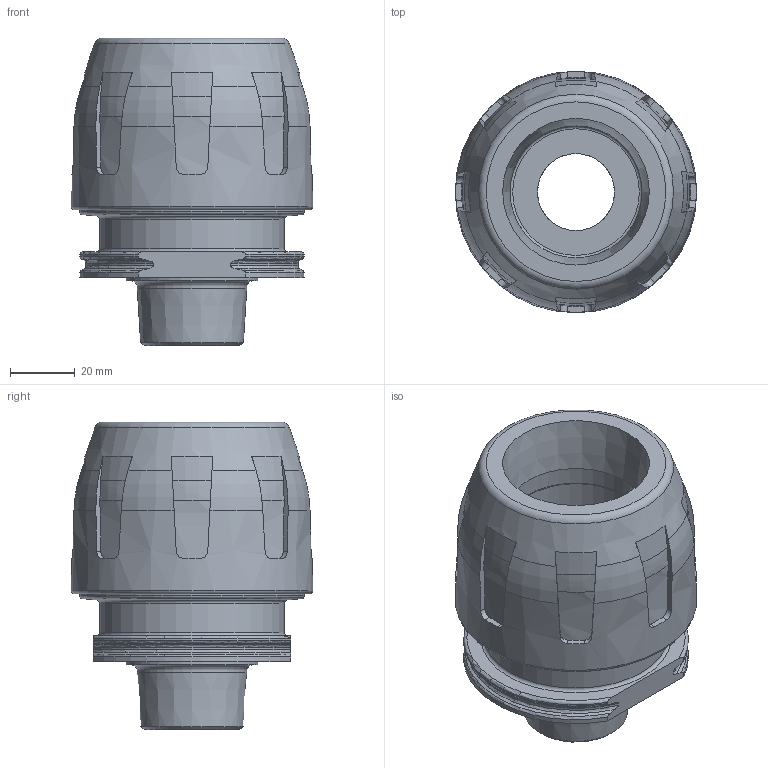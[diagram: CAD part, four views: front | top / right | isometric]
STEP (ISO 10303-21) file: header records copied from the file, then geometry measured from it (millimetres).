
FILE_DESCRIPTION( ( 'STEP AP214' ), '1' );
FILE_NAME( ' ', ' ', ( ' ' ), ( ' ' ), 'PSStep 11.0', 'VISI 17.0', ' ' );
FILE_SCHEMA( ( 'AUTOMOTIVE_DESIGN { 1 0 10303 214 1 1 1 1 }' ) );
Length unit declared in the file: millimetre
Products named in the file (2): 1; 2
Bounding box: 74.56 x 74.56 x 95 mm (x, y, z)
Volume: 188936.7 mm3; surface area: 55029.1 mm2
Topology: 2 solids, 2 shells, 238 faces, 662 edges, 439 vertices
Faces by surface type: plane 113, cone 54, cylinder 33, torus 22, bspline 16
Full cylindrical faces by diameter (mm): 40.7 x2, 40.9 x1, 57 x1, 58.9 x1, 59.8 x2, 64.1 x1, 65.4 x1, 69.4 x1, 70.4 x1
Entity records: 10291 total; most frequent: CARTESIAN_POINT 2720, ORIENTED_EDGE 1230, DIRECTION 1094, EDGE_CURVE 615, AXIS2_PLACEMENT_3D 475, VERTEX_POINT 425, EDGE_LOOP 286, FACE_OUTER_BOUND 261
